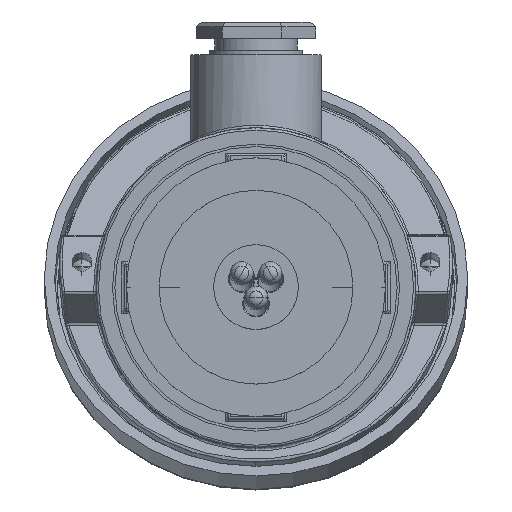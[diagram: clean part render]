
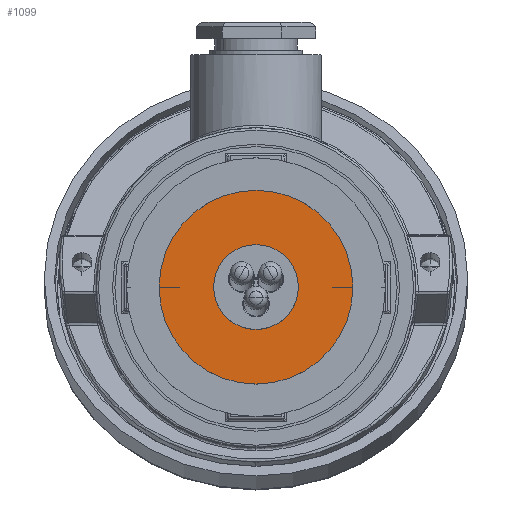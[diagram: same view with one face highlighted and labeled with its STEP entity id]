
A CAD part, top view. The second image highlights one B-rep face of the part: STEP entity #1099.
In plain terms, the highlighted planar face has unit normal (0, 0, 1) as drawn and (0, -1, 0) by its records, which use the part's own axes.
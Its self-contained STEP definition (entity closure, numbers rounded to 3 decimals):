
#209 = DIRECTION ( 'NONE',  ( 0., 1., 0. ) ) ;
#480 = CARTESIAN_POINT ( 'NONE',  ( 0., 17.8, 0. ) ) ;
#981 = CARTESIAN_POINT ( 'NONE',  ( -9., 17.8, 0. ) ) ;
#1099 = ADVANCED_FACE ( 'NONE', ( #6320, #1267 ), #21285, .F. ) ;
#1145 = CARTESIAN_POINT ( 'NONE',  ( 0., 17.8, 0. ) ) ;
#1267 = FACE_BOUND ( 'NONE', #6605, .T. ) ;
#1628 = CIRCLE ( 'NONE', #3266, 9. ) ;
#2117 = CARTESIAN_POINT ( 'NONE',  ( 9., 17.8, 0. ) ) ;
#2385 = DIRECTION ( 'NONE',  ( -1., 0., 0. ) ) ;
#2400 = EDGE_LOOP ( 'NONE', ( #4777, #5684 ) ) ;
#2493 = CIRCLE ( 'NONE', #23216, 9. ) ;
#3064 = DIRECTION ( 'NONE',  ( -1., 0., 0. ) ) ;
#3266 = AXIS2_PLACEMENT_3D ( 'NONE', #11586, #209, #13524 ) ;
#3577 = VERTEX_POINT ( 'NONE', #22198 ) ;
#4777 = ORIENTED_EDGE ( 'NONE', *, *, #21846, .F. ) ;
#5684 = ORIENTED_EDGE ( 'NONE', *, *, #13787, .F. ) ;
#6320 = FACE_OUTER_BOUND ( 'NONE', #2400, .T. ) ;
#6605 = EDGE_LOOP ( 'NONE', ( #17024, #24330 ) ) ;
#6894 = DIRECTION ( 'NONE',  ( 0., 1., 0. ) ) ;
#6952 = EDGE_CURVE ( 'NONE', #17847, #10735, #1628, .T. ) ;
#8399 = AXIS2_PLACEMENT_3D ( 'NONE', #2117, #23126, #9690 ) ;
#8735 = CIRCLE ( 'NONE', #12744, 20.6 ) ;
#9690 = DIRECTION ( 'NONE',  ( -1., 0., 0. ) ) ;
#10582 = VERTEX_POINT ( 'NONE', #23565 ) ;
#10735 = VERTEX_POINT ( 'NONE', #981 ) ;
#11586 = CARTESIAN_POINT ( 'NONE',  ( 0., 17.8, 0. ) ) ;
#12616 = CIRCLE ( 'NONE', #24494, 20.6 ) ;
#12744 = AXIS2_PLACEMENT_3D ( 'NONE', #480, #13795, #2385 ) ;
#13524 = DIRECTION ( 'NONE',  ( -1., 0., 0. ) ) ;
#13787 = EDGE_CURVE ( 'NONE', #10582, #3577, #8735, .T. ) ;
#13795 = DIRECTION ( 'NONE',  ( 0., 1., 0. ) ) ;
#14472 = DIRECTION ( 'NONE',  ( 0., 1., 0. ) ) ;
#16899 = CARTESIAN_POINT ( 'NONE',  ( 9., 17.8, 0. ) ) ;
#17024 = ORIENTED_EDGE ( 'NONE', *, *, #21842, .T. ) ;
#17847 = VERTEX_POINT ( 'NONE', #16899 ) ;
#18349 = CARTESIAN_POINT ( 'NONE',  ( 0., 17.8, 0. ) ) ;
#20283 = DIRECTION ( 'NONE',  ( -1., 0., 0. ) ) ;
#21285 = PLANE ( 'NONE',  #8399 ) ;
#21842 = EDGE_CURVE ( 'NONE', #10735, #17847, #2493, .T. ) ;
#21846 = EDGE_CURVE ( 'NONE', #3577, #10582, #12616, .T. ) ;
#22198 = CARTESIAN_POINT ( 'NONE',  ( -20.6, 17.8, 0. ) ) ;
#23126 = DIRECTION ( 'NONE',  ( 0., 1., 0. ) ) ;
#23216 = AXIS2_PLACEMENT_3D ( 'NONE', #1145, #14472, #3064 ) ;
#23565 = CARTESIAN_POINT ( 'NONE',  ( 20.6, 17.8, 0. ) ) ;
#24330 = ORIENTED_EDGE ( 'NONE', *, *, #6952, .T. ) ;
#24494 = AXIS2_PLACEMENT_3D ( 'NONE', #18349, #6894, #20283 ) ;
